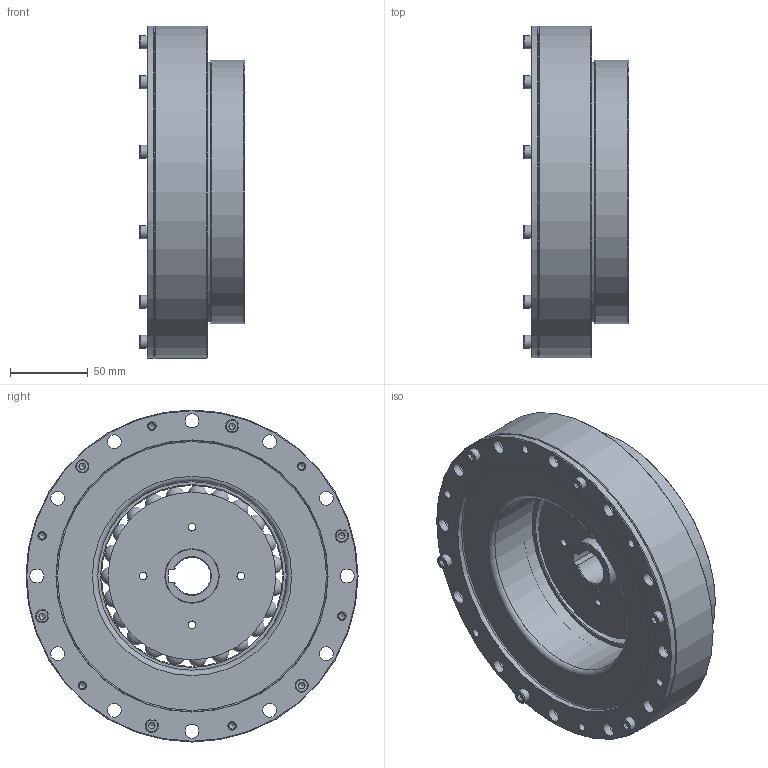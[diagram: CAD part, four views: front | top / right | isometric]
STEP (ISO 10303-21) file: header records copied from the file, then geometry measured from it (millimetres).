
FILE_DESCRIPTION (( 'STEP AP203' ), '1' );
FILE_NAME ('LHSG-50-XXX-C-I-S0A.STEP', '2025-01-07T03:20:02', ( '' ), ( '' ), 'SwSTEP 2.0', 'SolidWorks 2023', '' );
FILE_SCHEMA (( 'CONFIG_CONTROL_DESIGN' ));
Length unit declared in the file: metre
Products named in the file (1): LHSG-50-XXX-C-I-S0A
Bounding box: 68 x 214 x 214 mm (x, y, z)
Volume: 1059477 mm3; surface area: 411372 mm2
Topology: 54 solids, 54 shells, 885 faces, 2014 edges, 1238 vertices
Faces by surface type: plane 408, cylinder 225, cone 171, torus 58, sphere 23
Full cylindrical faces by diameter (mm): 3.3 x8, 4 x8, 4.2 x28, 4.5 x8, 5 x18, 5.5 x20, 6.6 x4, 6.8 x16, 8.4 x8, 8.5 x14, 9 x40, 9.5 x8, 35 x1, 40 x2, 83 x2, 87.9 x1, 89.3 x1, 89.5 x1, 94.3 x1, 95.3 x2, 96.5 x1, 108 x1, 116.8 x2, 122 x1, 122.5 x1, 123.2 x1, 127 x2, 135 x2, 135.6 x1, 140.4 x2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
Entity records: 21357 total; most frequent: DIRECTION 3860, CARTESIAN_POINT 3582, ORIENTED_EDGE 2826, AXIS2_PLACEMENT_3D 1629, EDGE_LOOP 1498, EDGE_CURVE 1413, FACE_OUTER_BOUND 1144, VERTEX_POINT 1079
